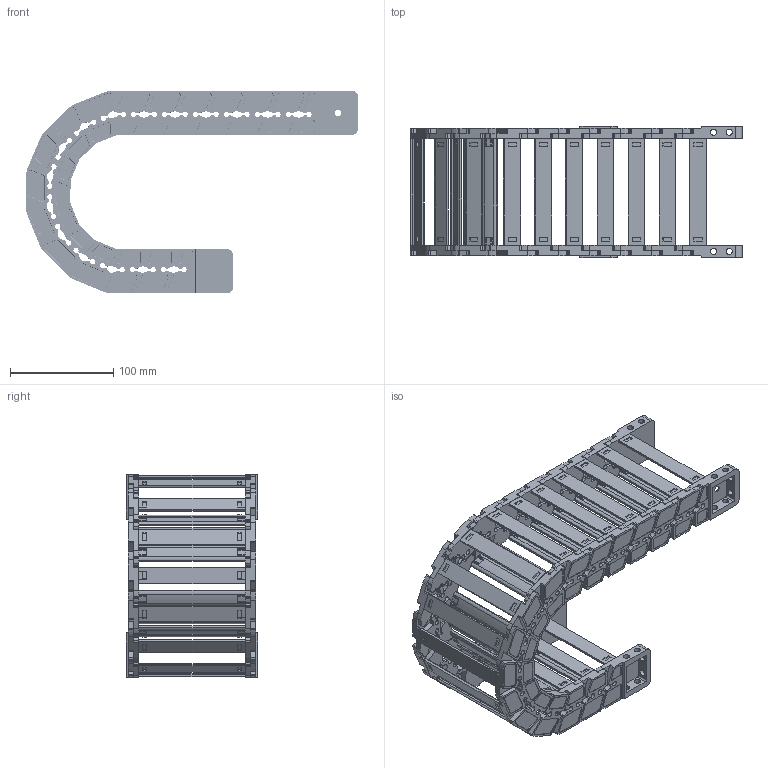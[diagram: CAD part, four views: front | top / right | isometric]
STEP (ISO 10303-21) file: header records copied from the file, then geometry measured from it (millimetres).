
FILE_DESCRIPTION((''),'2;1');
FILE_NAME('JY-35X103-R75_ASM','2025-01-05T19:09:23',('admin'),(''),'CREO PARAMETRIC BY PTC INC, 2021023','CREO PARAMETRIC BY PTC INC, 2021023','');
FILE_SCHEMA(('CONFIG_CONTROL_DESIGN'));
Length unit declared in the file: millimetre
Products named in the file (11): 35XL-L; YP; 35XL-R; ASM0001_ASM; 35-LTT-A-L; 35-LTT-A-R; 35XL-LTT-A_ASM; 35-LTT-B-L; 35-LTT-B-R; 35XL-LTT-B_ASM; JY-35X103-R75_ASM
Assembly tree (29 placements, depth 3):
  JY-35X103-R75_ASM
    ASM0001_ASM  x15
      35XL-L
      YP
      35XL-R
    35XL-LTT-A_ASM
      35-LTT-A-L
      YP  x2
      35-LTT-A-R
    35XL-LTT-B_ASM
      35-LTT-B-L
      YP  x2
      35-LTT-B-R
Bounding box: 321.72 x 127.5 x 196.34 mm (x, y, z)
Volume: 550237.4 mm3; surface area: 335262.2 mm2
Topology: 68 solids, 68 shells, 5536 faces, 16584 edges, 11192 vertices
Faces by surface type: plane 3130, cylinder 1830, cone 352, extrusion 128, bspline 96
Entity records: 27842 total; most frequent: CARTESIAN_POINT 6162, ORIENTED_EDGE 4640, DIRECTION 4353, EDGE_CURVE 2320, VERTEX_POINT 1568, AXIS2_PLACEMENT_3D 1468, VECTOR 1417, LINE 1401
